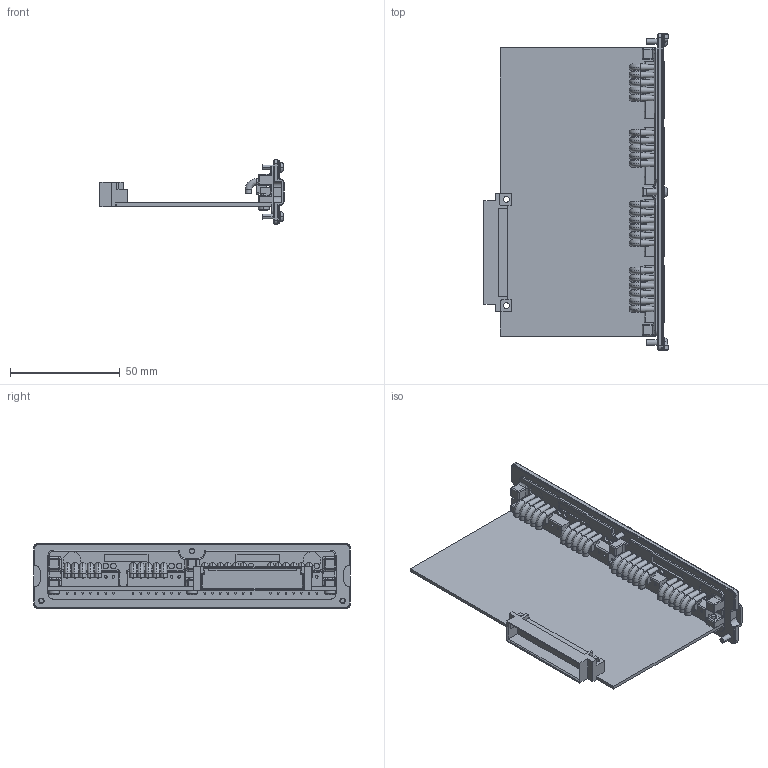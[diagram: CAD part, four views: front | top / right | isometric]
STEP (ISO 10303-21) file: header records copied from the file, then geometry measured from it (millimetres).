
FILE_DESCRIPTION((''),'2;1');
FILE_NAME('1_PX878_STEP_SW0002','2018-10-09T',('mellertr'),(''),'CREO PARAMETRIC BY PTC INC, 2017480','CREO PARAMETRIC BY PTC INC, 2017480','');
FILE_SCHEMA(('CONFIG_CONTROL_DESIGN'));
Products named in the file (1): 1_PX878_STEP_SW0002
Bounding box: 83.69 x 144 x 29.5 mm (x, y, z)
Volume: 35448.9 mm3; surface area: 42906.1 mm2
Topology: 1 solids, 2 shells, 3089 faces, 7916 edges, 5064 vertices
Faces by surface type: bspline 3089
Entity records: 135063 total; most frequent: CARTESIAN_POINT 49122, ORIENTED_EDGE 15824, DIRECTION 9574, EDGE_CURVE 7912, VECTOR 5682, LINE 5682, VERTEX_POINT 5064, EDGE_LOOP 3384
